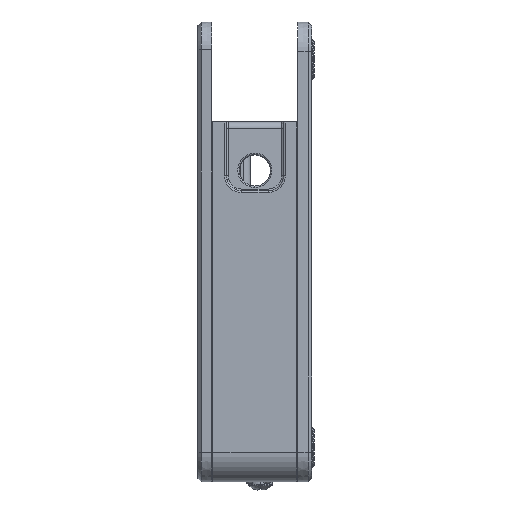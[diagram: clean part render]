
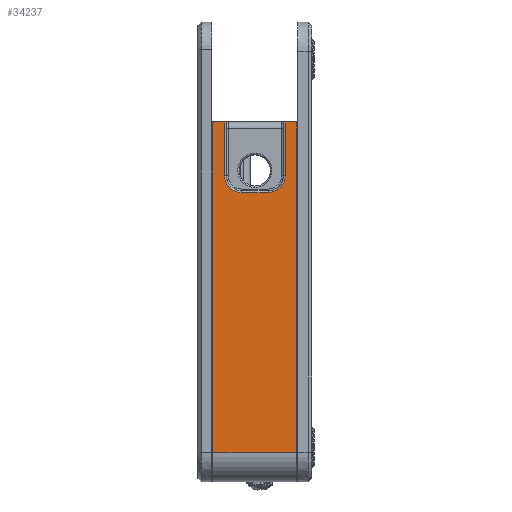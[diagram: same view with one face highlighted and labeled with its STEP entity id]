
A CAD part, left-side view. The second image highlights one B-rep face of the part: STEP entity #34237.
In plain terms, the highlighted planar face has unit normal (-1, 0, 0).
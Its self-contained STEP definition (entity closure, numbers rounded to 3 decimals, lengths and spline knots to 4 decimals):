
#1939=CARTESIAN_POINT('',(-3.4924,-0.1429,
4.0512));
#8178=CARTESIAN_POINT('',(-3.4924,-0.1431,
3.4464));
#8179=CARTESIAN_POINT('',(-3.4924,-0.1431,
3.4401));
#8180=CARTESIAN_POINT('',(-3.4924,-0.1438,
3.4274));
#8181=CARTESIAN_POINT('',(-3.4924,-0.1474,
3.4028));
#8182=CARTESIAN_POINT('',(-3.4924,-0.1564,
3.3733));
#8183=CARTESIAN_POINT('',(-3.4924,-0.1741,
3.3404));
#8184=CARTESIAN_POINT('',(-3.4924,-0.1979,
3.3113));
#8185=CARTESIAN_POINT('',(-3.4924,-0.2271,
3.2875));
#8186=CARTESIAN_POINT('',(-3.4924,-0.2601,
3.2698));
#8187=CARTESIAN_POINT('',(-3.4924,-0.2896,
3.2609));
#8188=CARTESIAN_POINT('',(-3.4924,-0.3142,
3.2572));
#8189=CARTESIAN_POINT('',(-3.4924,-0.3268,
3.2565));
#8190=CARTESIAN_POINT('',(-3.4924,-0.3332,
3.2565));
#8192=CARTESIAN_POINT('',(-3.4924,-0.6346,
3.2565));
#8193=CARTESIAN_POINT('',(-3.4924,-0.641,
3.2565));
#8194=CARTESIAN_POINT('',(-3.4924,-0.6536,
3.2572));
#8195=CARTESIAN_POINT('',(-3.4924,-0.6782,
3.2609));
#8196=CARTESIAN_POINT('',(-3.4924,-0.7077,
3.2698));
#8197=CARTESIAN_POINT('',(-3.4924,-0.7407,
3.2875));
#8198=CARTESIAN_POINT('',(-3.4924,-0.7698,
3.3113));
#8199=CARTESIAN_POINT('',(-3.4924,-0.7936,
3.3404));
#8200=CARTESIAN_POINT('',(-3.4924,-0.8113,
3.3733));
#8201=CARTESIAN_POINT('',(-3.4924,-0.8203,
3.4028));
#8202=CARTESIAN_POINT('',(-3.4924,-0.824,
3.4274));
#8203=CARTESIAN_POINT('',(-3.4924,-0.8247,
3.4401));
#8204=CARTESIAN_POINT('',(-3.4924,-0.8247,
3.4464));
#8206=DIRECTION('',(0.,-1.,0.));
#8207=VECTOR('',#8206,0.1297);
#8208=CARTESIAN_POINT('',(-3.4924,-0.8249,
4.0512));
#8209=LINE('',#8208,#8207);
#8210=DIRECTION('',(0.,0.,-1.));
#8211=VECTOR('',#8210,3.7165);
#8212=CARTESIAN_POINT('',(-3.4924,-0.9546,
4.0512));
#8213=LINE('',#8212,#8211);
#8214=DIRECTION('',(0.,-1.,0.));
#8215=VECTOR('',#8214,0.1329);
#8216=CARTESIAN_POINT('',(-3.4924,-0.01,4.0512));
#8217=LINE('',#8216,#8215);
#8218=DIRECTION('',(0.,0.,1.));
#8219=VECTOR('',#8218,0.6047);
#8220=CARTESIAN_POINT('',(-3.4924,-0.1431,
3.4464));
#8221=LINE('',#8220,#8219);
#8286=DIRECTION('',(0.,1.,0.));
#8287=VECTOR('',#8286,0.3014);
#8288=CARTESIAN_POINT('',(-3.4924,-0.6346,
3.2565));
#8289=LINE('',#8288,#8287);
#8332=DIRECTION('',(0.,0.,-1.));
#8333=VECTOR('',#8332,0.6047);
#8334=CARTESIAN_POINT('',(-3.4924,-0.8249,
4.0512));
#8335=LINE('',#8334,#8333);
#9857=DIRECTION('',(0.,0.,-1.));
#9858=VECTOR('',#9857,3.7165);
#9859=CARTESIAN_POINT('',(-3.4924,-0.01,4.0512));
#9860=LINE('',#9859,#9858);
#12708=DIRECTION('',(0.,-1.,0.));
#12709=VECTOR('',#12708,0.9446);
#12710=CARTESIAN_POINT('',(-3.4924,-0.01,0.3346));
#12711=LINE('',#12710,#12709);
#17311=VERTEX_POINT('',#1939);
#17312=CARTESIAN_POINT('',(-3.4924,-0.01,4.0512));
#17313=VERTEX_POINT('',#17312);
#18395=CARTESIAN_POINT('',(-3.4924,-0.9546,
4.0512));
#18396=VERTEX_POINT('',#18395);
#18397=CARTESIAN_POINT('',(-3.4924,-0.8249,
4.0512));
#18398=VERTEX_POINT('',#18397);
#18631=VERTEX_POINT('',#8192);
#18632=VERTEX_POINT('',#8204);
#18633=CARTESIAN_POINT('',(-3.4924,-0.1431,
3.4464));
#18634=VERTEX_POINT('',#18633);
#18635=VERTEX_POINT('',#8190);
#18636=CARTESIAN_POINT('',(-3.4924,-0.9546,
0.3346));
#18637=VERTEX_POINT('',#18636);
#18638=CARTESIAN_POINT('',(-3.4924,-0.01,0.3346));
#18639=VERTEX_POINT('',#18638);
#34213=CARTESIAN_POINT('',(-3.4924,0.,0.));
#34214=DIRECTION('',(-1.,0.,0.));
#34215=DIRECTION('',(0.,0.,1.));
#34216=AXIS2_PLACEMENT_3D('',#34213,#34214,#34215);
#34217=PLANE('',#34216);
#34219=ORIENTED_EDGE('',*,*,#34218,.F.);
#34221=ORIENTED_EDGE('',*,*,#34220,.T.);
#34223=ORIENTED_EDGE('',*,*,#34222,.F.);
#34224=ORIENTED_EDGE('',*,*,#34203,.T.);
#34226=ORIENTED_EDGE('',*,*,#34225,.F.);
#34227=ORIENTED_EDGE('',*,*,#31173,.T.);
#34229=ORIENTED_EDGE('',*,*,#34228,.T.);
#34231=ORIENTED_EDGE('',*,*,#34230,.F.);
#34233=ORIENTED_EDGE('',*,*,#34232,.F.);
#34234=ORIENTED_EDGE('',*,*,#23647,.T.);
#34235=EDGE_LOOP('',(#34219,#34221,#34223,#34224,#34226,#34227,#34229,#34231,
#34233,#34234));
#34236=FACE_OUTER_BOUND('',#34235,.F.);
#34237=ADVANCED_FACE('',(#34236),#34217,.T.);
#8191=B_SPLINE_CURVE_WITH_KNOTS('',3,(#8178,#8179,#8180,#8181,#8182,#8183,#8184,
#8185,#8186,#8187,#8188,#8189,#8190),.UNSPECIFIED.,.F.,.F.,(4,1,1,1,1,1,1,1,1,1,
4),(0.,0.0625,0.125,0.25,0.375,0.5,0.625,0.75,0.875,0.9375,
1.),.UNSPECIFIED.);
#8205=B_SPLINE_CURVE_WITH_KNOTS('',3,(#8192,#8193,#8194,#8195,#8196,#8197,#8198,
#8199,#8200,#8201,#8202,#8203,#8204),.UNSPECIFIED.,.F.,.F.,(4,1,1,1,1,1,1,1,1,1,
4),(0.,0.0625,0.125,0.25,0.375,0.5,0.625,0.75,0.875,0.9375,
1.),.UNSPECIFIED.);
#23647=EDGE_CURVE('',#17313,#17311,#8217,.T.);
#31173=EDGE_CURVE('',#18398,#18396,#8209,.T.);
#34203=EDGE_CURVE('',#18631,#18632,#8205,.T.);
#34218=EDGE_CURVE('',#18634,#17311,#8221,.T.);
#34220=EDGE_CURVE('',#18634,#18635,#8191,.T.);
#34222=EDGE_CURVE('',#18631,#18635,#8289,.T.);
#34225=EDGE_CURVE('',#18398,#18632,#8335,.T.);
#34228=EDGE_CURVE('',#18396,#18637,#8213,.T.);
#34230=EDGE_CURVE('',#18639,#18637,#12711,.T.);
#34232=EDGE_CURVE('',#17313,#18639,#9860,.T.);
